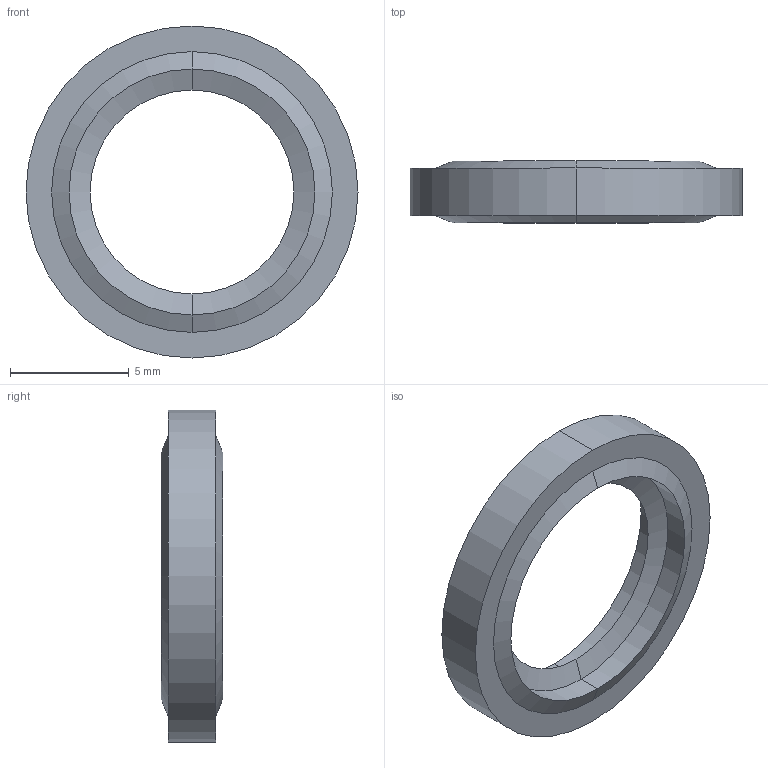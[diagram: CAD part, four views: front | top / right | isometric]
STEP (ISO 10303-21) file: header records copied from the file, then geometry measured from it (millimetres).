
FILE_DESCRIPTION (( 'STEP AP214' ), '1' );
FILE_NAME ('0161300001A.STEP', '2016-11-04T08:29:39', ( '' ), ( '' ), 'SwSTEP 2.0', 'SolidWorks 2016', '' );
FILE_SCHEMA (( 'AUTOMOTIVE_DESIGN' ));
Length unit declared in the file: millimetre
Products named in the file (2): 0161300001A
Bounding box: 14 x 2.6 x 14 mm (x, y, z)
Volume: 154.6 mm3; surface area: 351.9 mm2
Topology: 1 solids, 1 shells, 16 faces, 32 edges, 18 vertices
Faces by surface type: cone 8, cylinder 6, plane 2
Entity records: 599 total; most frequent: DIRECTION 86, CARTESIAN_POINT 68, ORIENTED_EDGE 64, AXIS2_PLACEMENT_3D 36, EDGE_CURVE 32, VERTEX_POINT 18, CIRCLE 18, EDGE_LOOP 18
